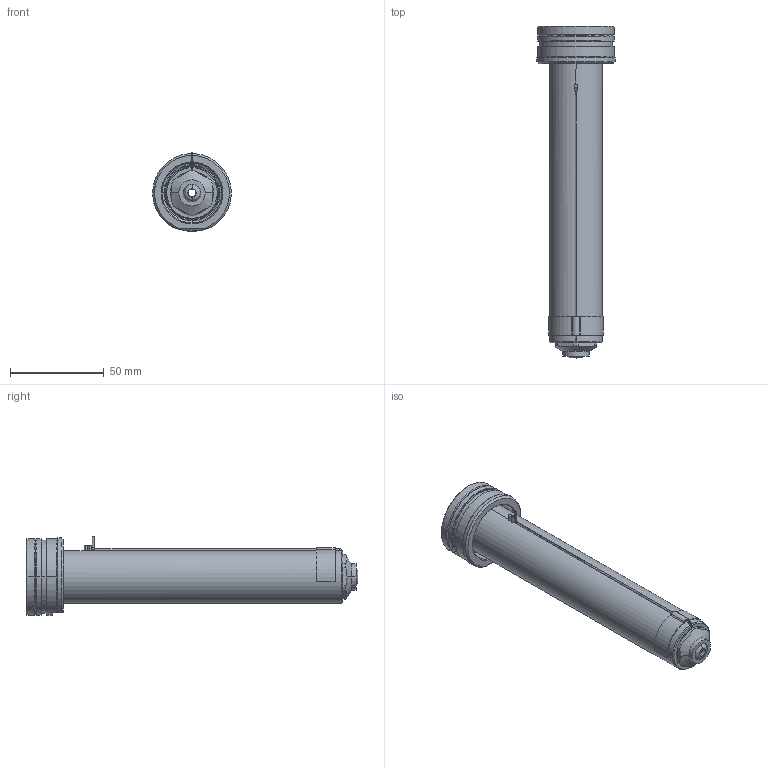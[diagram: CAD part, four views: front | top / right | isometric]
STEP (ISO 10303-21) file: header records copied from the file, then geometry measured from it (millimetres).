
FILE_DESCRIPTION((''),'2;1');
FILE_NAME('EO10_VG-BL_WR_160_SW','2024-02-19T13:12:13',('sundharh'),(''),'CREO PARAMETRIC BY PTC INC, 2023154','CREO PARAMETRIC BY PTC INC, 2023154','');
FILE_SCHEMA(('CONFIG_CONTROL_DESIGN'));
Length unit declared in the file: millimetre
Products named in the file (1): EO10_VG-BL_WR_160_SW
Bounding box: 41.85 x 177.2 x 42.02 mm (x, y, z)
Volume: 104066.5 mm3; surface area: 28185.4 mm2
Topology: 1 solids, 1 shells, 187 faces, 459 edges, 279 vertices
Faces by surface type: cylinder 71, plane 45, cone 35, torus 23, bspline 11, sphere 2
Entity records: 6390 total; most frequent: CARTESIAN_POINT 1897, DIRECTION 997, ORIENTED_EDGE 910, EDGE_CURVE 455, AXIS2_PLACEMENT_3D 416, VERTEX_POINT 279, CIRCLE 240, EDGE_LOOP 202
